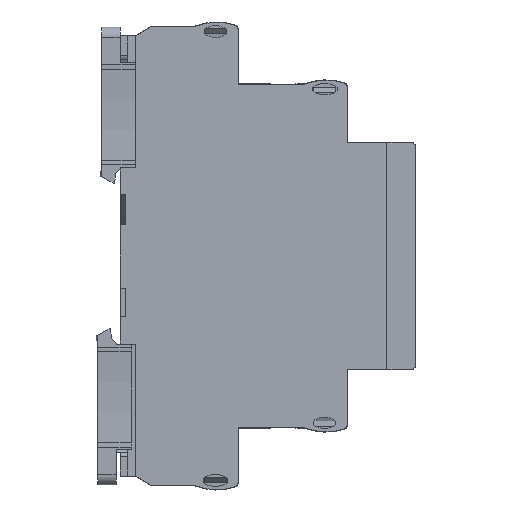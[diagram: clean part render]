
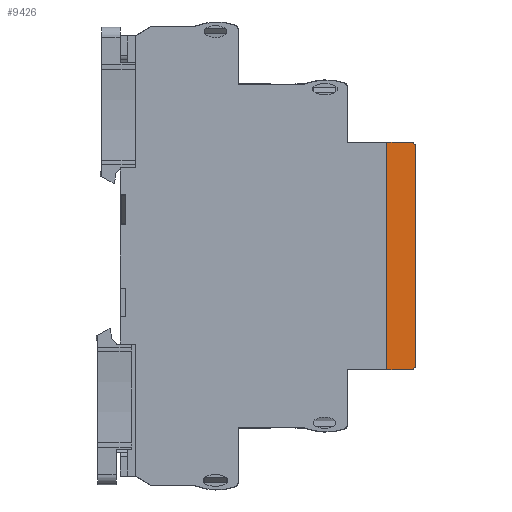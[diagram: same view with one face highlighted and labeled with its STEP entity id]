
A CAD part, front view. The second image highlights one B-rep face of the part: STEP entity #9426.
In plain terms, the highlighted planar face has unit normal (0, -1, 0) as drawn and (-1, 0, 0) by its records, which use the part's own axes.
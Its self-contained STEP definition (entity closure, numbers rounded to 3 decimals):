
#9426=ADVANCED_FACE('',(#116488),#116490,.T.);
#116488=FACE_BOUND('',#116489,.T.);
#116489=EDGE_LOOP('',(#197680,#197681,#197682,#197683,#197684,#197685));
#116490=PLANE('',#116491);
#116491=AXIS2_PLACEMENT_3D('',#116492,#116493,#116494);
#116492=CARTESIAN_POINT('',(-6.5,-22.6,1.5));
#116493=DIRECTION('',(-1.,0.,0.));
#116494=DIRECTION('',(0.,0.,1.));
#197680=ORIENTED_EDGE('',*,*,#276431,.T.);
#197681=ORIENTED_EDGE('',*,*,#276432,.T.);
#197682=ORIENTED_EDGE('',*,*,#276403,.F.);
#197683=ORIENTED_EDGE('',*,*,#276433,.T.);
#197684=ORIENTED_EDGE('',*,*,#276434,.F.);
#197685=ORIENTED_EDGE('',*,*,#276435,.T.);
#276403=EDGE_CURVE('',#311397,#311398,#311399,.T.);
#276431=EDGE_CURVE('',#311449,#311450,#311451,.T.);
#276432=EDGE_CURVE('',#311450,#311398,#311452,.T.);
#276433=EDGE_CURVE('',#311397,#311453,#311454,.T.);
#276434=EDGE_CURVE('',#311455,#311453,#311456,.T.);
#276435=EDGE_CURVE('',#311455,#311449,#311457,.T.);
#311397=VERTEX_POINT('',#371416);
#311398=VERTEX_POINT('',#371417);
#311399=LINE('',#371418,#371419);
#311449=VERTEX_POINT('',#371524);
#311450=VERTEX_POINT('',#371525);
#311451=LINE('',#371526,#371527);
#311452=CIRCLE('',#371529,1.);
#311453=VERTEX_POINT('',#371533);
#311454=CIRCLE('',#371534,1.);
#311455=VERTEX_POINT('',#371538);
#311456=LINE('',#371539,#371540);
#311457=LINE('',#371542,#371543);
#371416=CARTESIAN_POINT('',(-6.5,-21.6,0.));
#371417=CARTESIAN_POINT('',(-6.5,21.6,0.));
#371418=CARTESIAN_POINT('',(-6.5,-21.6,0.));
#371419=VECTOR('',#371420,1.);
#371420=DIRECTION('',(0.,1.,0.));
#371524=CARTESIAN_POINT('',(-6.5,22.6,5.75));
#371525=CARTESIAN_POINT('',(-6.5,22.6,1.));
#371526=CARTESIAN_POINT('',(-6.5,22.6,5.75));
#371527=VECTOR('',#371528,1.);
#371528=DIRECTION('',(0.,0.,-1.));
#371529=AXIS2_PLACEMENT_3D('',#371530,#371531,#371532);
#371530=CARTESIAN_POINT('',(-6.5,21.6,1.));
#371531=DIRECTION('',(-1.,0.,0.));
#371532=DIRECTION('',(0.,1.,0.));
#371533=CARTESIAN_POINT('',(-6.5,-22.6,1.));
#371534=AXIS2_PLACEMENT_3D('',#371535,#371536,#371537);
#371535=CARTESIAN_POINT('',(-6.5,-21.6,1.));
#371536=DIRECTION('',(-1.,0.,0.));
#371537=DIRECTION('',(0.,0.,-1.));
#371538=CARTESIAN_POINT('',(-6.5,-22.6,5.75));
#371539=CARTESIAN_POINT('',(-6.5,-22.6,5.75));
#371540=VECTOR('',#371541,1.);
#371541=DIRECTION('',(0.,0.,-1.));
#371542=CARTESIAN_POINT('',(-6.5,-22.6,5.75));
#371543=VECTOR('',#371544,1.);
#371544=DIRECTION('',(0.,1.,0.));
